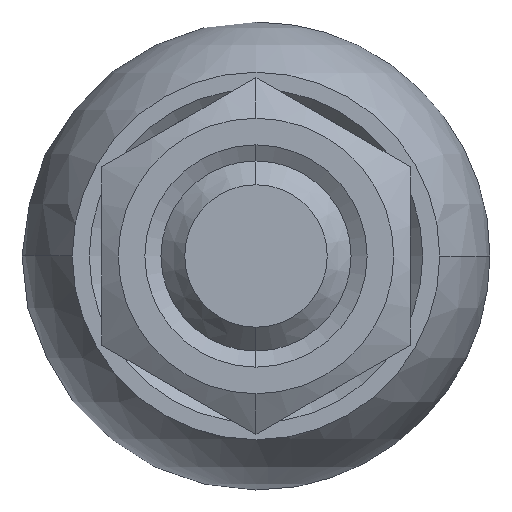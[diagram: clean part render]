
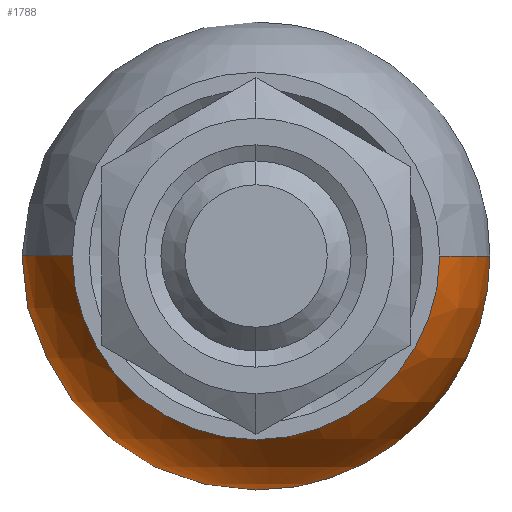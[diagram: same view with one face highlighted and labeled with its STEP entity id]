
A CAD part, left-side view. The second image highlights one B-rep face of the part: STEP entity #1788.
In plain terms, the highlighted spherical face has radius 9.85 mm.
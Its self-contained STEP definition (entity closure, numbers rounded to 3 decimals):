
#35 = DIRECTION ( 'NONE',  ( 0., 0., 1. ) ) ;
#38 = DIRECTION ( 'NONE',  ( -1., 0., 0. ) ) ;
#40 = CARTESIAN_POINT ( 'NONE',  ( -22.733, 0., 0. ) ) ;
#43 = VERTEX_POINT ( 'NONE', #1792 ) ;
#51 = DIRECTION ( 'NONE',  ( 1., 0., 0. ) ) ;
#75 = DIRECTION ( 'NONE',  ( 0., -1., 0. ) ) ;
#94 = EDGE_CURVE ( 'NONE', #3270, #3237, #2201, .T. ) ;
#187 = DIRECTION ( 'NONE',  ( 1., 0., 0. ) ) ;
#343 = AXIS2_PLACEMENT_3D ( 'NONE', #2210, #187, #678 ) ;
#528 = AXIS2_PLACEMENT_3D ( 'NONE', #40, #51, #1516 ) ;
#565 = DIRECTION ( 'NONE',  ( 0., -1., 0. ) ) ;
#573 = DIRECTION ( 'NONE',  ( 0., -1., 0. ) ) ;
#615 = AXIS2_PLACEMENT_3D ( 'NONE', #2605, #35, #75 ) ;
#678 = DIRECTION ( 'NONE',  ( 0., 0., 1. ) ) ;
#680 = DIRECTION ( 'NONE',  ( -1., 0., 0. ) ) ;
#687 = CARTESIAN_POINT ( 'NONE',  ( -29.999, 0., 0. ) ) ;
#688 = AXIS2_PLACEMENT_3D ( 'NONE', #2380, #2886, #573 ) ;
#750 = CARTESIAN_POINT ( 'NONE',  ( -22.733, 6.65, 0. ) ) ;
#799 = VERTEX_POINT ( 'NONE', #1168 ) ;
#825 = EDGE_CURVE ( 'NONE', #799, #1247, #2663, .T. ) ;
#837 = ORIENTED_EDGE ( 'NONE', *, *, #1364, .F. ) ;
#975 = EDGE_CURVE ( 'NONE', #43, #799, #1196, .T. ) ;
#1168 = CARTESIAN_POINT ( 'NONE',  ( -22.733, 0., -6.65 ) ) ;
#1196 = CIRCLE ( 'NONE', #528, 6.65 ) ;
#1247 = VERTEX_POINT ( 'NONE', #750 ) ;
#1319 = CIRCLE ( 'NONE', #615, 9.85 ) ;
#1323 = AXIS2_PLACEMENT_3D ( 'NONE', #687, #3218, #680 ) ;
#1364 = EDGE_CURVE ( 'NONE', #1247, #3270, #1319, .T. ) ;
#1440 = ORIENTED_EDGE ( 'NONE', *, *, #94, .F. ) ;
#1516 = DIRECTION ( 'NONE',  ( 0., 0., 1. ) ) ;
#1788 = ADVANCED_FACE ( 'NONE', ( #3073 ), #2515, .T. ) ;
#1792 = CARTESIAN_POINT ( 'NONE',  ( -22.733, -6.65, 0. ) ) ;
#1816 = CARTESIAN_POINT ( 'NONE',  ( -36.099, 0., 0. ) ) ;
#2054 = EDGE_LOOP ( 'NONE', ( #837, #2607, #2242, #2780, #1440 ) ) ;
#2201 = CIRCLE ( 'NONE', #2221, 7.734 ) ;
#2210 = CARTESIAN_POINT ( 'NONE',  ( -22.733, 0., 0. ) ) ;
#2221 = AXIS2_PLACEMENT_3D ( 'NONE', #1816, #38, #565 ) ;
#2242 = ORIENTED_EDGE ( 'NONE', *, *, #975, .F. ) ;
#2249 = CARTESIAN_POINT ( 'NONE',  ( -36.099, 7.734, 0. ) ) ;
#2317 = EDGE_CURVE ( 'NONE', #43, #3237, #3162, .T. ) ;
#2380 = CARTESIAN_POINT ( 'NONE',  ( -29.999, 0., 0. ) ) ;
#2515 = SPHERICAL_SURFACE ( 'NONE', #688, 9.85 ) ;
#2605 = CARTESIAN_POINT ( 'NONE',  ( -29.999, 0., 0. ) ) ;
#2607 = ORIENTED_EDGE ( 'NONE', *, *, #825, .F. ) ;
#2663 = CIRCLE ( 'NONE', #343, 6.65 ) ;
#2780 = ORIENTED_EDGE ( 'NONE', *, *, #2317, .T. ) ;
#2886 = DIRECTION ( 'NONE',  ( 0., 0., 1. ) ) ;
#2889 = CARTESIAN_POINT ( 'NONE',  ( -36.099, -7.734, 0. ) ) ;
#3073 = FACE_OUTER_BOUND ( 'NONE', #2054, .T. ) ;
#3162 = CIRCLE ( 'NONE', #1323, 9.85 ) ;
#3218 = DIRECTION ( 'NONE',  ( 0., 0., -1. ) ) ;
#3237 = VERTEX_POINT ( 'NONE', #2889 ) ;
#3270 = VERTEX_POINT ( 'NONE', #2249 ) ;
